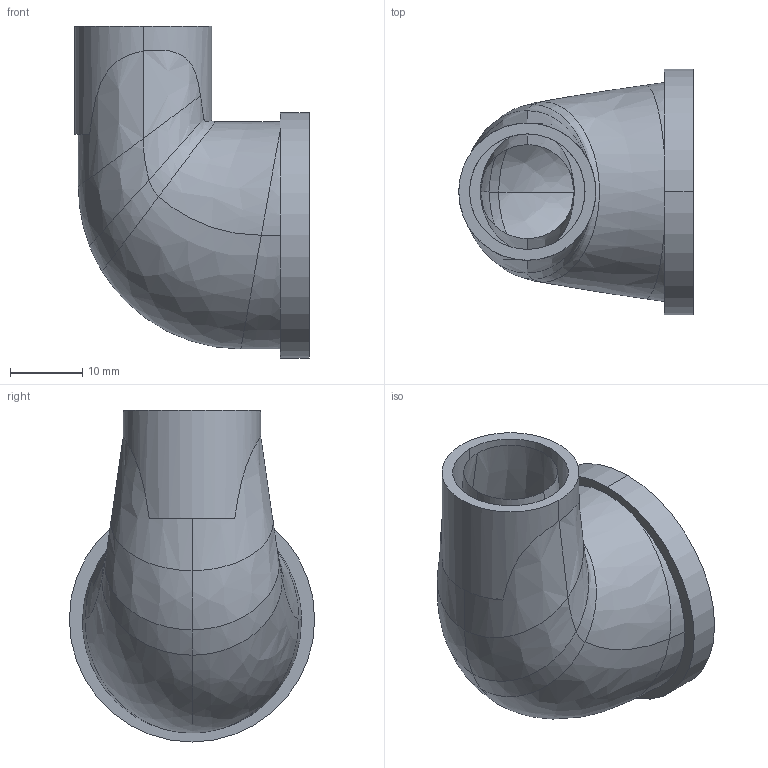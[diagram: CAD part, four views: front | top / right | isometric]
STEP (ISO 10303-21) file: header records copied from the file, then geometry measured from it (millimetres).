
FILE_DESCRIPTION (( 'STEP AP203' ), '1' );
FILE_NAME ('4090g-15x1-2.STEP', '2024-01-27T00:36:29', ( '' ), ( '' ), 'SwSTEP 2.0', 'SolidWorks 2018', '' );
FILE_SCHEMA (( 'CONFIG_CONTROL_DESIGN' ));
Length unit declared in the file: millimetre
Products named in the file (1): 4090g-15x1-2
Bounding box: 32.5 x 34 x 46 mm (x, y, z)
Surface area: 11106.8 mm2 (no closed solid volume)
Topology: 0 solids, 2 shells, 93 faces, 250 edges, 154 vertices
Faces by surface type: bspline 58, cylinder 24, plane 9, cone 2
Entity records: 10127 total; most frequent: CARTESIAN_POINT 8314, ORIENTED_EDGE 494, EDGE_CURVE 250, B_SPLINE_CURVE_WITH_KNOTS 186, VERTEX_POINT 154, DIRECTION 141, EDGE_LOOP 96, FACE_OUTER_BOUND 93
